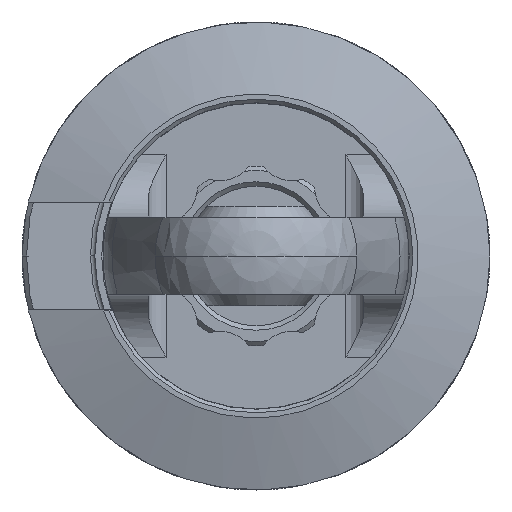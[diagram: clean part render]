
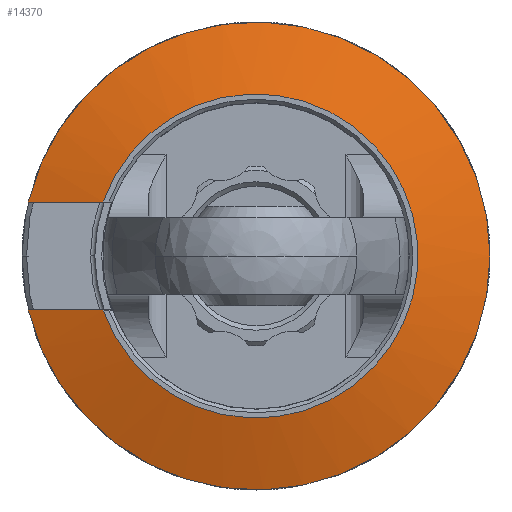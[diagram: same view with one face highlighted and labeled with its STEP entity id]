
A CAD part, left-side view. The second image highlights one B-rep face of the part: STEP entity #14370.
In plain terms, the highlighted conical face has half-angle 73 degrees and reference radius 22 mm.
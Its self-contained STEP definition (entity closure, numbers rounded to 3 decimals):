
#5678=CARTESIAN_POINT('',(-177.554,0.,0.));
#5679=DIRECTION('',(-1.,0.,0.));
#5680=DIRECTION('',(0.,0.973,-0.231));
#5681=AXIS2_PLACEMENT_3D('',#5678,#5679,#5680);
#5696=CARTESIAN_POINT('',(-180.,0.,0.));
#5697=DIRECTION('',(-1.,0.,0.));
#5698=DIRECTION('',(0.,0.943,-0.333));
#5699=AXIS2_PLACEMENT_3D('',#5696,#5697,#5698);
#5701=CARTESIAN_POINT('',(-177.554,25.298,6.));
#5702=CARTESIAN_POINT('',(-177.631,25.04,6.));
#5703=CARTESIAN_POINT('',(-177.783,24.53,6.));
#5704=CARTESIAN_POINT('',(-178.004,23.783,6.));
#5705=CARTESIAN_POINT('',(-178.221,23.052,6.));
#5706=CARTESIAN_POINT('',(-178.433,22.333,6.));
#5707=CARTESIAN_POINT('',(-178.642,21.626,6.));
#5708=CARTESIAN_POINT('',(-178.846,20.932,6.));
#5709=CARTESIAN_POINT('',(-179.044,20.257,6.));
#5710=CARTESIAN_POINT('',(-179.238,19.594,6.));
#5711=CARTESIAN_POINT('',(-179.43,18.937,6.));
#5712=CARTESIAN_POINT('',(-179.62,18.283,6.));
#5713=CARTESIAN_POINT('',(-179.81,17.629,6.));
#5714=CARTESIAN_POINT('',(-179.937,17.19,6.));
#5715=CARTESIAN_POINT('',(-180.,16.971,6.));
#5717=CARTESIAN_POINT('',(-180.,16.971,-6.));
#5718=CARTESIAN_POINT('',(-179.936,17.191,-6.));
#5719=CARTESIAN_POINT('',(-179.809,17.631,-6.));
#5720=CARTESIAN_POINT('',(-179.618,18.291,-6.));
#5721=CARTESIAN_POINT('',(-179.426,18.95,-6.));
#5722=CARTESIAN_POINT('',(-179.234,19.61,-6.));
#5723=CARTESIAN_POINT('',(-179.04,20.272,-6.));
#5724=CARTESIAN_POINT('',(-178.842,20.946,-6.));
#5725=CARTESIAN_POINT('',(-178.637,21.641,-6.));
#5726=CARTESIAN_POINT('',(-178.429,22.348,-6.));
#5727=CARTESIAN_POINT('',(-178.217,23.063,-6.));
#5728=CARTESIAN_POINT('',(-178.002,23.79,-6.));
#5729=CARTESIAN_POINT('',(-177.782,24.532,-6.));
#5730=CARTESIAN_POINT('',(-177.631,25.041,-6.));
#5731=CARTESIAN_POINT('',(-177.554,25.298,-6.));
#10571=VERTEX_POINT('',#5717);
#10572=VERTEX_POINT('',#5731);
#10573=VERTEX_POINT('',#5701);
#10574=VERTEX_POINT('',#5715);
#14358=CARTESIAN_POINT('',(-178.777,0.,0.));
#14359=DIRECTION('',(1.,0.,0.));
#14360=DIRECTION('',(0.,0.,1.));
#14361=AXIS2_PLACEMENT_3D('',#14358,#14359,#14360);
#14362=CONICAL_SURFACE('',#14361,22.,73.);
#14364=ORIENTED_EDGE('',*,*,#14363,.T.);
#14365=ORIENTED_EDGE('',*,*,#14214,.F.);
#14366=ORIENTED_EDGE('',*,*,#14350,.F.);
#14367=ORIENTED_EDGE('',*,*,#12028,.F.);
#14368=EDGE_LOOP('',(#14364,#14365,#14366,#14367));
#14369=FACE_OUTER_BOUND('',#14368,.F.);
#14370=ADVANCED_FACE('',(#14369),#14362,.T.);
#5682=CIRCLE('',#5681,26.);
#5700=CIRCLE('',#5699,18.);
#5716=B_SPLINE_CURVE_WITH_KNOTS('',3,(#5701,#5702,#5703,#5704,#5705,#5706,#5707,
#5708,#5709,#5710,#5711,#5712,#5713,#5714,#5715),.UNSPECIFIED.,.F.,.F.,(4,1,1,1,
1,1,1,1,1,1,1,1,4),(0.,0.083,0.167,0.25,
0.333,0.417,0.5,0.583,0.667,
0.75,0.833,0.917,1.),.UNSPECIFIED.);
#5732=B_SPLINE_CURVE_WITH_KNOTS('',3,(#5717,#5718,#5719,#5720,#5721,#5722,#5723,
#5724,#5725,#5726,#5727,#5728,#5729,#5730,#5731),.UNSPECIFIED.,.F.,.F.,(4,1,1,1,
1,1,1,1,1,1,1,1,4),(0.,0.083,0.167,0.25,
0.333,0.417,0.5,0.583,0.667,
0.75,0.833,0.917,1.),.UNSPECIFIED.);
#12028=EDGE_CURVE('',#10571,#10572,#5732,.T.);
#14214=EDGE_CURVE('',#10573,#10574,#5716,.T.);
#14350=EDGE_CURVE('',#10572,#10573,#5682,.T.);
#14363=EDGE_CURVE('',#10571,#10574,#5700,.T.);
